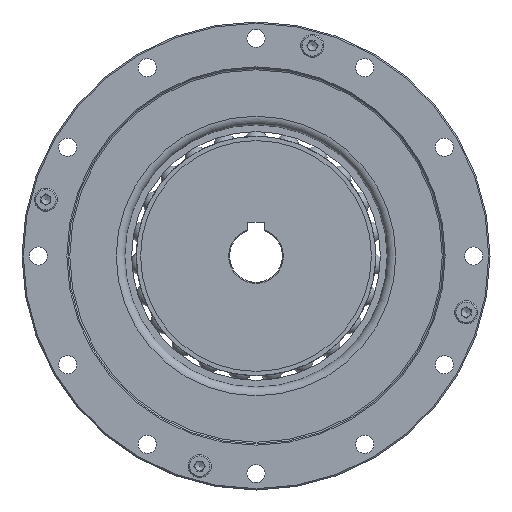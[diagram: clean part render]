
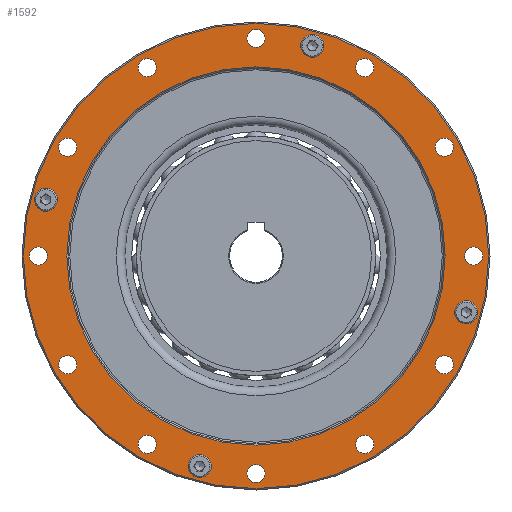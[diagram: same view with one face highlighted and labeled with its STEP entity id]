
A CAD part, left-side view. The second image highlights one B-rep face of the part: STEP entity #1592.
In plain terms, the highlighted planar face has unit normal (-1, 0, 0).
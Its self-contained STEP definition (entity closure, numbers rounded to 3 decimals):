
#1592=ADVANCED_FACE('',(#2329,#2330,#2331,#2332,#2333,#2334,#2335,#2336,
#2337,#2338,#2339,#2340,#2341,#2342,#2343,#2344,#2345,#2346),#2128,.F.);
#2128=PLANE('',#8209);
#2329=FACE_BOUND('',#3070,.T.);
#2330=FACE_BOUND('',#3071,.T.);
#2331=FACE_BOUND('',#3072,.T.);
#2332=FACE_BOUND('',#3073,.T.);
#2333=FACE_BOUND('',#3074,.T.);
#2334=FACE_BOUND('',#3075,.T.);
#2335=FACE_BOUND('',#3076,.T.);
#2336=FACE_BOUND('',#3077,.T.);
#2337=FACE_BOUND('',#3078,.T.);
#2338=FACE_BOUND('',#3079,.T.);
#2339=FACE_BOUND('',#3080,.T.);
#2340=FACE_BOUND('',#3081,.T.);
#2341=FACE_BOUND('',#3082,.T.);
#2342=FACE_BOUND('',#3083,.T.);
#2343=FACE_BOUND('',#3084,.T.);
#2344=FACE_BOUND('',#3085,.T.);
#2345=FACE_BOUND('',#3086,.T.);
#2346=FACE_BOUND('',#3087,.T.);
#3070=EDGE_LOOP('',(#3974));
#3071=EDGE_LOOP('',(#3975));
#3072=EDGE_LOOP('',(#3976));
#3073=EDGE_LOOP('',(#3977));
#3074=EDGE_LOOP('',(#3978));
#3075=EDGE_LOOP('',(#3979));
#3076=EDGE_LOOP('',(#3980));
#3077=EDGE_LOOP('',(#3981));
#3078=EDGE_LOOP('',(#3982));
#3079=EDGE_LOOP('',(#3983));
#3080=EDGE_LOOP('',(#3984));
#3081=EDGE_LOOP('',(#3985));
#3082=EDGE_LOOP('',(#3986));
#3083=EDGE_LOOP('',(#3987));
#3084=EDGE_LOOP('',(#3988));
#3085=EDGE_LOOP('',(#3989));
#3086=EDGE_LOOP('',(#3990));
#3087=EDGE_LOOP('',(#3991));
#3974=ORIENTED_EDGE('',*,*,#6497,.T.);
#3975=ORIENTED_EDGE('',*,*,#6498,.T.);
#3976=ORIENTED_EDGE('',*,*,#6499,.T.);
#3977=ORIENTED_EDGE('',*,*,#6500,.T.);
#3978=ORIENTED_EDGE('',*,*,#6501,.T.);
#3979=ORIENTED_EDGE('',*,*,#6502,.T.);
#3980=ORIENTED_EDGE('',*,*,#6503,.T.);
#3981=ORIENTED_EDGE('',*,*,#6504,.T.);
#3982=ORIENTED_EDGE('',*,*,#6505,.T.);
#3983=ORIENTED_EDGE('',*,*,#6506,.T.);
#3984=ORIENTED_EDGE('',*,*,#6507,.T.);
#3985=ORIENTED_EDGE('',*,*,#6508,.T.);
#3986=ORIENTED_EDGE('',*,*,#6509,.T.);
#3987=ORIENTED_EDGE('',*,*,#6510,.T.);
#3988=ORIENTED_EDGE('',*,*,#6511,.T.);
#3989=ORIENTED_EDGE('',*,*,#6512,.T.);
#3990=ORIENTED_EDGE('',*,*,#6513,.T.);
#3991=ORIENTED_EDGE('',*,*,#6495,.T.);
#5754=VERTEX_POINT('',#11565);
#5756=VERTEX_POINT('',#11571);
#5757=VERTEX_POINT('',#11573);
#5758=VERTEX_POINT('',#11575);
#5759=VERTEX_POINT('',#11577);
#5760=VERTEX_POINT('',#11579);
#5761=VERTEX_POINT('',#11581);
#5762=VERTEX_POINT('',#11583);
#5763=VERTEX_POINT('',#11585);
#5764=VERTEX_POINT('',#11587);
#5765=VERTEX_POINT('',#11589);
#5766=VERTEX_POINT('',#11591);
#5767=VERTEX_POINT('',#11593);
#5768=VERTEX_POINT('',#11595);
#5769=VERTEX_POINT('',#11597);
#5770=VERTEX_POINT('',#11599);
#5771=VERTEX_POINT('',#11601);
#5772=VERTEX_POINT('',#11603);
#6495=EDGE_CURVE('',#5754,#5754,#7485,.T.);
#6497=EDGE_CURVE('',#5756,#5756,#7487,.T.);
#6498=EDGE_CURVE('',#5757,#5757,#7488,.T.);
#6499=EDGE_CURVE('',#5758,#5758,#7489,.T.);
#6500=EDGE_CURVE('',#5759,#5759,#7490,.T.);
#6501=EDGE_CURVE('',#5760,#5760,#7491,.T.);
#6502=EDGE_CURVE('',#5761,#5761,#7492,.T.);
#6503=EDGE_CURVE('',#5762,#5762,#7493,.T.);
#6504=EDGE_CURVE('',#5763,#5763,#7494,.T.);
#6505=EDGE_CURVE('',#5764,#5764,#7495,.T.);
#6506=EDGE_CURVE('',#5765,#5765,#7496,.T.);
#6507=EDGE_CURVE('',#5766,#5766,#7497,.T.);
#6508=EDGE_CURVE('',#5767,#5767,#7498,.T.);
#6509=EDGE_CURVE('',#5768,#5768,#7499,.T.);
#6510=EDGE_CURVE('',#5769,#5769,#7500,.T.);
#6511=EDGE_CURVE('',#5770,#5770,#7501,.T.);
#6512=EDGE_CURVE('',#5771,#5771,#7502,.T.);
#6513=EDGE_CURVE('',#5772,#5772,#7503,.T.);
#7485=CIRCLE('',#8188,70.6);
#7487=CIRCLE('',#8192,2.25);
#7488=CIRCLE('',#8193,2.25);
#7489=CIRCLE('',#8194,2.25);
#7490=CIRCLE('',#8195,2.25);
#7491=CIRCLE('',#8196,2.75);
#7492=CIRCLE('',#8197,2.75);
#7493=CIRCLE('',#8198,2.75);
#7494=CIRCLE('',#8199,2.75);
#7495=CIRCLE('',#8200,2.75);
#7496=CIRCLE('',#8201,2.75);
#7497=CIRCLE('',#8202,2.75);
#7498=CIRCLE('',#8203,2.75);
#7499=CIRCLE('',#8204,2.75);
#7500=CIRCLE('',#8205,2.75);
#7501=CIRCLE('',#8206,2.75);
#7502=CIRCLE('',#8207,2.75);
#7503=CIRCLE('',#8208,57.4);
#8188=AXIS2_PLACEMENT_3D('',#11564,#9288,#9289);
#8192=AXIS2_PLACEMENT_3D('',#11570,#9296,#9297);
#8193=AXIS2_PLACEMENT_3D('',#11572,#9298,#9299);
#8194=AXIS2_PLACEMENT_3D('',#11574,#9300,#9301);
#8195=AXIS2_PLACEMENT_3D('',#11576,#9302,#9303);
#8196=AXIS2_PLACEMENT_3D('',#11578,#9304,#9305);
#8197=AXIS2_PLACEMENT_3D('',#11580,#9306,#9307);
#8198=AXIS2_PLACEMENT_3D('',#11582,#9308,#9309);
#8199=AXIS2_PLACEMENT_3D('',#11584,#9310,#9311);
#8200=AXIS2_PLACEMENT_3D('',#11586,#9312,#9313);
#8201=AXIS2_PLACEMENT_3D('',#11588,#9314,#9315);
#8202=AXIS2_PLACEMENT_3D('',#11590,#9316,#9317);
#8203=AXIS2_PLACEMENT_3D('',#11592,#9318,#9319);
#8204=AXIS2_PLACEMENT_3D('',#11594,#9320,#9321);
#8205=AXIS2_PLACEMENT_3D('',#11596,#9322,#9323);
#8206=AXIS2_PLACEMENT_3D('',#11598,#9324,#9325);
#8207=AXIS2_PLACEMENT_3D('',#11600,#9326,#9327);
#8208=AXIS2_PLACEMENT_3D('',#11602,#9328,#9329);
#8209=AXIS2_PLACEMENT_3D('',#11604,#9330,#9331);
#9288=DIRECTION('',(-1.,0.,0.));
#9289=DIRECTION('',(0.,0.5,0.866));
#9296=DIRECTION('',(1.,0.,0.));
#9297=DIRECTION('',(0.,0.5,0.866));
#9298=DIRECTION('',(1.,0.,0.));
#9299=DIRECTION('',(0.,0.5,0.866));
#9300=DIRECTION('',(1.,0.,0.));
#9301=DIRECTION('',(0.,0.5,0.866));
#9302=DIRECTION('',(1.,0.,0.));
#9303=DIRECTION('',(0.,0.5,0.866));
#9304=DIRECTION('',(1.,0.,0.));
#9305=DIRECTION('',(0.,0.5,0.866));
#9306=DIRECTION('',(1.,0.,0.));
#9307=DIRECTION('',(0.,0.5,0.866));
#9308=DIRECTION('',(1.,0.,0.));
#9309=DIRECTION('',(0.,0.5,0.866));
#9310=DIRECTION('',(1.,0.,0.));
#9311=DIRECTION('',(0.,0.5,0.866));
#9312=DIRECTION('',(1.,0.,0.));
#9313=DIRECTION('',(0.,0.5,0.866));
#9314=DIRECTION('',(1.,0.,0.));
#9315=DIRECTION('',(0.,0.5,0.866));
#9316=DIRECTION('',(1.,0.,0.));
#9317=DIRECTION('',(0.,0.5,0.866));
#9318=DIRECTION('',(1.,0.,0.));
#9319=DIRECTION('',(0.,0.5,0.866));
#9320=DIRECTION('',(1.,0.,0.));
#9321=DIRECTION('',(0.,0.5,0.866));
#9322=DIRECTION('',(1.,0.,0.));
#9323=DIRECTION('',(0.,0.5,0.866));
#9324=DIRECTION('',(1.,0.,0.));
#9325=DIRECTION('',(0.,0.5,0.866));
#9326=DIRECTION('',(1.,0.,0.));
#9327=DIRECTION('',(0.,0.5,0.866));
#9328=DIRECTION('',(1.,0.,0.));
#9329=DIRECTION('',(0.,0.5,0.866));
#9330=DIRECTION('',(1.,0.,0.));
#9331=DIRECTION('',(0.,0.5,0.866));
#11564=CARTESIAN_POINT('',(-42.,0.,0.));
#11565=CARTESIAN_POINT('',(-42.,35.3,61.141));
#11570=CARTESIAN_POINT('',(-42.,-17.082,63.751));
#11571=CARTESIAN_POINT('',(-42.,-15.957,65.7));
#11572=CARTESIAN_POINT('',(-42.,63.751,17.082));
#11573=CARTESIAN_POINT('',(-42.,64.876,19.031));
#11574=CARTESIAN_POINT('',(-42.,17.082,-63.751));
#11575=CARTESIAN_POINT('',(-42.,18.207,-61.803));
#11576=CARTESIAN_POINT('',(-42.,-63.751,-17.082));
#11577=CARTESIAN_POINT('',(-42.,-62.626,-15.133));
#11578=CARTESIAN_POINT('',(-42.,-66.,0.));
#11579=CARTESIAN_POINT('',(-42.,-64.625,2.382));
#11580=CARTESIAN_POINT('',(-42.,-57.158,-33.));
#11581=CARTESIAN_POINT('',(-42.,-55.783,-30.618));
#11582=CARTESIAN_POINT('',(-42.,-33.,-57.158));
#11583=CARTESIAN_POINT('',(-42.,-31.625,-54.776));
#11584=CARTESIAN_POINT('',(-42.,0.,-66.));
#11585=CARTESIAN_POINT('',(-42.,1.375,-63.618));
#11586=CARTESIAN_POINT('',(-42.,33.,-57.158));
#11587=CARTESIAN_POINT('',(-42.,34.375,-54.776));
#11588=CARTESIAN_POINT('',(-42.,57.158,-33.));
#11589=CARTESIAN_POINT('',(-42.,58.533,-30.618));
#11590=CARTESIAN_POINT('',(-42.,66.,0.));
#11591=CARTESIAN_POINT('',(-42.,67.375,2.382));
#11592=CARTESIAN_POINT('',(-42.,57.158,33.));
#11593=CARTESIAN_POINT('',(-42.,58.533,35.382));
#11594=CARTESIAN_POINT('',(-42.,33.,57.158));
#11595=CARTESIAN_POINT('',(-42.,34.375,59.539));
#11596=CARTESIAN_POINT('',(-42.,0.,66.));
#11597=CARTESIAN_POINT('',(-42.,1.375,68.382));
#11598=CARTESIAN_POINT('',(-42.,-33.,57.158));
#11599=CARTESIAN_POINT('',(-42.,-31.625,59.539));
#11600=CARTESIAN_POINT('',(-42.,-57.158,33.));
#11601=CARTESIAN_POINT('',(-42.,-55.783,35.382));
#11602=CARTESIAN_POINT('',(-42.,0.,0.));
#11603=CARTESIAN_POINT('',(-42.,28.7,49.71));
#11604=CARTESIAN_POINT('',(-42.,-61.488,35.5));
